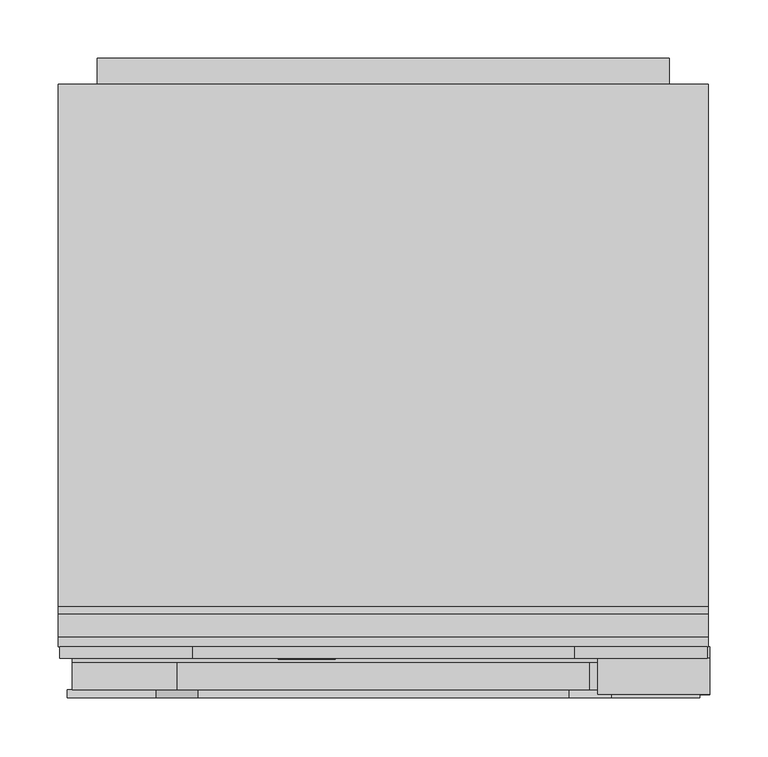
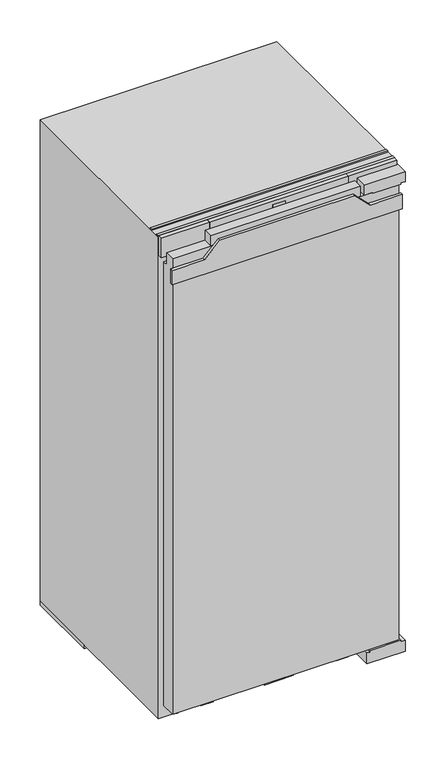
"""IFC4 building model written with IfcOpenShell, lengths in millimetres: proxy geometry, 11641120_EU1_K7343D : 36734300_EU1_11641120_K7343D."""

from ifc_helpers import new_model, si_unit, point, frame, frame_2d, origin, origin_with_axes, place, context, project, spatial, polyline, circle_curve, ellipse_curve, trimmed, segment, composite_curve, outline, extrude, faceted_brep, source, transform, mapped, element, save
from ifc_brep_helpers import plane_surface, cylinder_surface, revolved_surface, extruded_surface, advanced_brep


def specialty_equipment_4f898c9b(model_context):
    return source(origin(), model_context, "Body", "SolidModel", [
        advanced_brep(
        [(-46.64, 33.0, 1184.896), (-46.64, 33.0, 1185.704), (-41.288, 33.0, 1185.704), (-50.6, 33.0, 1185.704), (-48.4, 33.0, 1183.0), (-41.424, 33.0, 1184.896), (-43.84, 33.0, 1184.896), (-45.744, 33.0, 1184.0), (-46.64, 33.0, 1186.728), (-46.64, 33.0, 1187.6), (-45.272, 33.0, 1187.6), (-45.272, 33.0, 1186.728), (-46.64, 34.0, 1184.896), (-45.744, 34.0, 1184.0), (-43.84, 34.0, 1184.896), (-41.424, 34.0, 1184.896), (-48.4, 34.0, 1183.0), (-50.6, 34.0, 1185.704), (-41.288, 34.0, 1185.704), (-46.64, 34.0, 1185.704), (-46.64, 34.0, 1186.728), (-45.272, 34.0, 1186.728), (-45.272, 34.0, 1187.6), (-46.64, 34.0, 1187.6)],
        [
            (0, 1),
            (1, 2),
            (2, 3, ellipse_curve(frame((-45.944, 33.0, 1185.704), z_axis=(0.0, -1.0, 0.0), x_axis=(-1.0, 0.0, 0.0)), 4.656, 3.848)),
            (3, 4, circle_curve(frame((-47.5039564, 33.0, 1185.976), z_axis=(0.0, -1.0, 0.0), x_axis=(0.0, 0.0, -1.0)), 3.1079688)),
            (4, 5, circle_curve(frame((-46.0372064, 33.0, 1188.088), z_axis=(0.0, -1.0, 0.0), x_axis=(0.0, 0.0, -1.0)), 5.6098607)),
            (5, 6),
            (6, 7, circle_curve(frame((-45.3529412, 33.0, 1185.64), z_axis=(0.0, 1.0, 0.0), x_axis=(0.0, 0.0, -1.0)), 1.6859795)),
            (7, 0, circle_curve(frame((-45.744, 33.0, 1184.896), z_axis=(0.0, 1.0, 0.0), x_axis=(0.0, 0.0, -1.0)), 0.896)),
            (8, 9),
            (9, 10, circle_curve(frame((-45.956, 33.0, 1187.6), z_axis=(0.0, 1.0, 0.0), x_axis=(0.0, 0.0, -1.0)), 0.684)),
            (10, 11),
            (11, 8),
            (12, 13, circle_curve(frame((-45.744, 34.0, 1184.896), z_axis=(0.0, -1.0, 0.0), x_axis=(0.0, 0.0, -1.0)), 0.896)),
            (13, 14, circle_curve(frame((-45.3529412, 34.0, 1185.64), z_axis=(0.0, -1.0, 0.0), x_axis=(0.0, 0.0, -1.0)), 1.6859795)),
            (14, 15),
            (15, 16, circle_curve(frame((-46.0372064, 34.0, 1188.088), z_axis=(0.0, 1.0, 0.0), x_axis=(0.0, 0.0, -1.0)), 5.6098607)),
            (16, 17, circle_curve(frame((-47.5039564, 34.0, 1185.976), z_axis=(0.0, 1.0, 0.0), x_axis=(0.0, 0.0, -1.0)), 3.1079688)),
            (17, 18, ellipse_curve(frame((-45.944, 34.0, 1185.704), z_axis=(0.0, 1.0, 0.0), x_axis=(-1.0, 0.0, 0.0)), 4.656, 3.848)),
            (18, 19),
            (19, 12),
            (20, 21),
            (21, 22),
            (22, 23, circle_curve(frame((-45.956, 34.0, 1187.6), z_axis=(0.0, -1.0, 0.0), x_axis=(0.0, 0.0, -1.0)), 0.684)),
            (23, 20),
            (0, 12),
            (19, 1),
            (18, 2),
            (5, 15),
            (14, 6),
            (17, 3),
            (13, 7),
            (16, 4),
            (8, 20),
            (23, 9),
            (22, 10),
            (21, 11),
        ],
        [
            plane_surface(frame((-46.64, 33.0, 1185.704), z_axis=(0.0, -1.0, 0.0), x_axis=(0.0, 0.0, 1.0))),
            plane_surface(frame((-46.64, 34.0, 1185.704), z_axis=(0.0, 1.0, 0.0), x_axis=(0.0, 0.0, -1.0))),
            plane_surface(frame((-46.64, 33.0, 1184.896), z_axis=(1.0, 0.0, 0.0), x_axis=(0.0, 1.0, 0.0))),
            plane_surface(frame((-46.64, 33.0, 1185.704), z_axis=(0.0, 0.0, -1.0), x_axis=(0.0, 1.0, 0.0))),
            plane_surface(frame((-41.424, 33.0, 1184.896), z_axis=(0.0, 0.0, 1.0), x_axis=(0.0, 1.0, 0.0))),
            extruded_surface(trimmed(ellipse_curve(frame((-45.944, 35.0, 1185.704), z_axis=(0.0, -1.0, 0.0), x_axis=(-1.0, 0.0, 0.0)), 4.656, 3.848), [point((-41.288, 35.0, 1185.704))], [point((-50.6, 35.0, 1185.704))], True, "CARTESIAN"), (0.0, -1.0, 0.0), 1.0),
            revolved_surface(polyline([(-45.3529412, 34.0, 1183.9540205), (-45.3529412, 33.0, 1183.9540205)]), (-45.3529412, 34.0, 1185.64), (0.0, 1.0, 0.0)),
            revolved_surface(polyline([(-45.744, 34.0, 1184.0), (-45.744, 33.0, 1184.0)]), (-45.744, 34.0, 1184.896), (0.0, 1.0, 0.0)),
            cylinder_surface(frame((-47.5039564, 34.0, 1185.976), z_axis=(0.0, -1.0, 0.0), x_axis=(0.0, 0.0, -1.0)), 3.1079688),
            cylinder_surface(frame((-46.0372064, 34.0, 1188.088), z_axis=(0.0, -1.0, 0.0), x_axis=(0.0, 0.0, -1.0)), 5.6098607),
            plane_surface(frame((-46.64, 33.0, 1186.728), z_axis=(1.0, 0.0, 0.0), x_axis=(0.0, 1.0, 0.0))),
            revolved_surface(polyline([(-45.956, 34.0, 1186.916), (-45.956, 33.0, 1186.916)]), (-45.956, 34.0, 1187.6), (0.0, 1.0, 0.0)),
            plane_surface(frame((-45.272, 33.0, 1187.6), z_axis=(-1.0, 0.0, 0.0), x_axis=(0.0, 1.0, 0.0))),
            plane_surface(frame((-45.272, 33.0, 1186.728), z_axis=(0.0, 0.0, 1.0), x_axis=(0.0, 1.0, 0.0))),
        ],
        [
            (0, [[1, 2, 3, 4, 5, 6, 7, 8], [9, 10, 11, 12]]),
            (1, [[13, 14, 15, 16, 17, 18, 19, 20], [21, 22, 23, 24]]),
            (2, [[-1, 25, -20, 26]]),
            (3, [[-2, -26, -19, 27]]),
            (4, [[-6, 28, -15, 29]]),
            (5, [[-3, -27, -18, 30]]),
            (6, [[-7, -29, -14, 31]]),
            (7, [[-8, -31, -13, -25]]),
            (8, [[-4, -30, -17, 32]]),
            (9, [[-5, -32, -16, -28]]),
            (10, [[-9, 33, -24, 34]]),
            (11, [[-10, -34, -23, 35]]),
            (12, [[-11, -35, -22, 36]]),
            (13, [[-12, -36, -21, -33]]),
        ],
    ),
        advanced_brep(
        [(-63.336, 33.0, 1184.896), (-63.336, 33.0, 1185.704), (-57.984, 33.0, 1185.704), (-67.296, 33.0, 1185.704), (-65.096, 33.0, 1183.0), (-58.12, 33.0, 1184.896), (-60.536, 33.0, 1184.896), (-62.44, 33.0, 1184.0), (-63.336, 33.0, 1186.728), (-63.336, 33.0, 1187.6), (-61.968, 33.0, 1187.6), (-61.968, 33.0, 1186.728), (-63.336, 34.0, 1184.896), (-62.44, 34.0, 1184.0), (-60.536, 34.0, 1184.896), (-58.12, 34.0, 1184.896), (-65.096, 34.0, 1183.0), (-67.296, 34.0, 1185.704), (-57.984, 34.0, 1185.704), (-63.336, 34.0, 1185.704), (-63.336, 34.0, 1186.728), (-61.968, 34.0, 1186.728), (-61.968, 34.0, 1187.6), (-63.336, 34.0, 1187.6)],
        [
            (0, 1),
            (1, 2),
            (2, 3, ellipse_curve(frame((-62.64, 33.0, 1185.704), z_axis=(0.0, -1.0, 0.0), x_axis=(-1.0, 0.0, 0.0)), 4.656, 3.848)),
            (3, 4, circle_curve(frame((-64.1999564, 33.0, 1185.976), z_axis=(0.0, -1.0, 0.0), x_axis=(0.0, 0.0, -1.0)), 3.1079688)),
            (4, 5, circle_curve(frame((-62.7332064, 33.0, 1188.088), z_axis=(0.0, -1.0, 0.0), x_axis=(0.0, 0.0, -1.0)), 5.6098607)),
            (5, 6),
            (6, 7, circle_curve(frame((-62.0489412, 33.0, 1185.64), z_axis=(0.0, 1.0, 0.0), x_axis=(0.0, 0.0, -1.0)), 1.6859795)),
            (7, 0, circle_curve(frame((-62.44, 33.0, 1184.896), z_axis=(0.0, 1.0, 0.0), x_axis=(0.0, 0.0, -1.0)), 0.896)),
            (8, 9),
            (9, 10, circle_curve(frame((-62.652, 33.0, 1187.6), z_axis=(0.0, 1.0, 0.0), x_axis=(0.0, 0.0, -1.0)), 0.684)),
            (10, 11),
            (11, 8),
            (12, 13, circle_curve(frame((-62.44, 34.0, 1184.896), z_axis=(0.0, -1.0, 0.0), x_axis=(0.0, 0.0, -1.0)), 0.896)),
            (13, 14, circle_curve(frame((-62.0489412, 34.0, 1185.64), z_axis=(0.0, -1.0, 0.0), x_axis=(0.0, 0.0, -1.0)), 1.6859795)),
            (14, 15),
            (15, 16, circle_curve(frame((-62.7332064, 34.0, 1188.088), z_axis=(0.0, 1.0, 0.0), x_axis=(0.0, 0.0, -1.0)), 5.6098607)),
            (16, 17, circle_curve(frame((-64.1999564, 34.0, 1185.976), z_axis=(0.0, 1.0, 0.0), x_axis=(0.0, 0.0, -1.0)), 3.1079688)),
            (17, 18, ellipse_curve(frame((-62.64, 34.0, 1185.704), z_axis=(0.0, 1.0, 0.0), x_axis=(-1.0, 0.0, 0.0)), 4.656, 3.848)),
            (18, 19),
            (19, 12),
            (20, 21),
            (21, 22),
            (22, 23, circle_curve(frame((-62.652, 34.0, 1187.6), z_axis=(0.0, -1.0, 0.0), x_axis=(0.0, 0.0, -1.0)), 0.684)),
            (23, 20),
            (0, 12),
            (19, 1),
            (18, 2),
            (5, 15),
            (14, 6),
            (17, 3),
            (13, 7),
            (16, 4),
            (8, 20),
            (23, 9),
            (22, 10),
            (21, 11),
        ],
        [
            plane_surface(frame((-63.336, 33.0, 1185.704), z_axis=(0.0, -1.0, 0.0), x_axis=(0.0, 0.0, 1.0))),
            plane_surface(frame((-63.336, 34.0, 1185.704), z_axis=(0.0, 1.0, 0.0), x_axis=(0.0, 0.0, -1.0))),
            plane_surface(frame((-63.336, 33.0, 1184.896), z_axis=(1.0, 0.0, 0.0), x_axis=(0.0, 1.0, 0.0))),
            plane_surface(frame((-63.336, 33.0, 1185.704), z_axis=(0.0, 0.0, -1.0), x_axis=(0.0, 1.0, 0.0))),
            plane_surface(frame((-58.12, 33.0, 1184.896), z_axis=(0.0, 0.0, 1.0), x_axis=(0.0, 1.0, 0.0))),
            extruded_surface(trimmed(ellipse_curve(frame((-62.64, 35.0, 1185.704), z_axis=(0.0, -1.0, 0.0), x_axis=(-1.0, 0.0, 0.0)), 4.656, 3.848), [point((-57.984, 35.0, 1185.704))], [point((-67.296, 35.0, 1185.704))], True, "CARTESIAN"), (0.0, -1.0, 0.0), 1.0),
            revolved_surface(polyline([(-62.0489412, 34.0, 1183.9540205), (-62.0489412, 33.0, 1183.9540205)]), (-62.0489412, 34.0, 1185.64), (0.0, 1.0, 0.0)),
            revolved_surface(polyline([(-62.44, 34.0, 1184.0), (-62.44, 33.0, 1184.0)]), (-62.44, 34.0, 1184.896), (0.0, 1.0, 0.0)),
            cylinder_surface(frame((-64.1999564, 34.0, 1185.976), z_axis=(0.0, -1.0, 0.0), x_axis=(0.0, 0.0, -1.0)), 3.1079688),
            cylinder_surface(frame((-62.7332064, 34.0, 1188.088), z_axis=(0.0, -1.0, 0.0), x_axis=(0.0, 0.0, -1.0)), 5.6098607),
            plane_surface(frame((-63.336, 33.0, 1186.728), z_axis=(1.0, 0.0, 0.0), x_axis=(0.0, 1.0, 0.0))),
            revolved_surface(polyline([(-62.652, 34.0, 1186.916), (-62.652, 33.0, 1186.916)]), (-62.652, 34.0, 1187.6), (0.0, 1.0, 0.0)),
            plane_surface(frame((-61.968, 33.0, 1187.6), z_axis=(-1.0, 0.0, 0.0), x_axis=(0.0, 1.0, 0.0))),
            plane_surface(frame((-61.968, 33.0, 1186.728), z_axis=(0.0, 0.0, 1.0), x_axis=(0.0, 1.0, 0.0))),
        ],
        [
            (0, [[1, 2, 3, 4, 5, 6, 7, 8], [9, 10, 11, 12]]),
            (1, [[13, 14, 15, 16, 17, 18, 19, 20], [21, 22, 23, 24]]),
            (2, [[-1, 25, -20, 26]]),
            (3, [[-2, -26, -19, 27]]),
            (4, [[-6, 28, -15, 29]]),
            (5, [[-3, -27, -18, 30]]),
            (6, [[-7, -29, -14, 31]]),
            (7, [[-8, -31, -13, -25]]),
            (8, [[-4, -30, -17, 32]]),
            (9, [[-5, -32, -16, -28]]),
            (10, [[-9, 33, -24, 34]]),
            (11, [[-10, -34, -23, 35]]),
            (12, [[-11, -35, -22, 36]]),
            (13, [[-12, -36, -21, -33]]),
        ],
    ),
        extrude(outline(polyline([(1190.528, -72.08), (1189.232, -71.472), (1190.496, -68.76), (1191.792, -69.36), (1190.528, -72.08)])), frame((0.0, 33.0, 0.0), z_axis=(0.0, 1.0, 0.0), x_axis=(0.0, 0.0, 1.0)), (0.0, 0.0, 1.0), 1.0),
        extrude(outline(polyline([(1189.056, -74.056), (1187.624, -74.056), (1187.624, -73.104), (1184.344, -73.104), (1184.344, -74.056), (1183.0, -74.056), (1183.0, -67.744), (1184.344, -67.744), (1184.344, -68.672), (1189.056, -68.672), (1189.056, -74.056)])), frame((0.0, 33.0, 0.0), z_axis=(0.0, 1.0, 0.0), x_axis=(0.0, 0.0, 1.0)), (0.0, 0.0, 1.0), 1.0),
        extrude(outline(polyline([(1189.696, -57.536), (1189.696, -56.576), (1184.344, -56.576), (1184.344, -57.536), (1183.0, -57.536), (1183.0, -51.048), (1184.344, -51.048), (1184.344, -52.032), (1191.0, -52.032), (1191.0, -57.536), (1189.696, -57.536)])), frame((0.0, 33.0, 0.0), z_axis=(0.0, 1.0, 0.0), x_axis=(0.0, 0.0, 1.0)), (0.0, 0.0, 1.0), 1.0),
        extrude(outline(polyline([(1189.696, -90.0), (1189.696, -89.032), (1184.344, -89.032), (1184.344, -90.0), (1183.0, -90.0), (1183.0, -86.48), (1184.344, -86.48), (1184.344, -87.44), (1187.7471247, -87.44), (1183.0, -83.864), (1187.8152223, -80.272), (1184.344, -80.272), (1184.344, -81.256), (1183.0, -81.256), (1183.0, -74.872), (1184.344, -74.872), (1184.344, -75.888), (1189.696, -75.888), (1189.696, -74.872), (1191.0, -74.872), (1191.0, -79.744), (1188.0, -82.08), (1191.0, -84.424), (1191.0, -90.0), (1189.696, -90.0)])), frame((0.0, 33.0, 0.0), z_axis=(0.0, 1.0, 0.0), x_axis=(0.0, 0.0, 1.0)), (0.0, 0.0, 1.0), 1.0),
        faceted_brep([(163.5, 34.0, 1212.0), (-163.5, 34.0, 1212.0), (-163.5, 34.0, 1163.0), (163.5, 34.0, 1163.0), (15.0, 34.0, 1203.0), (15.0, 34.0, 1173.0), (-15.0, 34.0, 1173.0), (-15.0, 34.0, 1203.0), (163.5, 44.0, 1212.0), (163.5, 44.0, 1163.0), (-163.5, 44.0, 1163.0), (-163.5, 44.0, 1212.0), (15.0, 35.0, 1203.0), (-15.0, 35.0, 1203.0), (-15.0, 35.0, 1173.0), (15.0, 35.0, 1173.0)], [[[0, 1, 2, 3], [4, 5, 6, 7]], [[8, 9, 10, 11]], [[0, 3, 9, 8]], [[3, 2, 10, 9]], [[2, 1, 11, 10]], [[1, 0, 8, 11]], [[12, 13, 14, 15]], [[12, 15, 5, 4]], [[15, 14, 6, 5]], [[14, 13, 7, 6]], [[13, 12, 4, 7]]]),
        extrude(outline(polyline([(163.5, 44.0), (277.5, 44.0), (277.5, 34.0), (163.5, 34.0), (163.5, 44.0)])), frame((0.0, 0.0, 1163.0), z_axis=(0.0, 0.0, 1.0), x_axis=(1.0, 0.0, 0.0)), (0.0, 0.0, 1.0), 49.0),
        extrude(outline(polyline([(-277.5, 44.0), (-163.5, 44.0), (-163.5, 34.0), (-277.5, 34.0), (-277.5, 44.0)])), frame((0.0, 0.0, 1163.0), z_axis=(0.0, 0.0, 1.0), x_axis=(1.0, 0.0, 0.0)), (0.0, 0.0, 1.0), 49.0),
        extrude(outline(polyline([(-15.0, 35.0), (15.0, 35.0), (15.0, 34.0), (-15.0, 34.0), (-15.0, 35.0)])), frame((0.0, 0.0, 1173.0), z_axis=(0.0, 0.0, 1.0), x_axis=(1.0, 0.0, 0.0)), (0.0, 0.0, 1.0), 30.0),
        extrude(outline(polyline([(1136.0, -245.0), (27.0, -245.0), (27.0, 245.0), (130.0, 245.0), (130.0, 180.0), (160.0, 180.0), (160.0, 245.0), (1136.0, 245.0), (1136.0, -245.0)])), frame((0.0, 526.0, 0.0), z_axis=(0.0, 1.0, 0.0), x_axis=(0.0, 0.0, 1.0)), (0.0, 0.0, 1.0), 22.0),
        extrude(outline(polyline([(-144.9296686, 52.0), (-174.0, 52.0), (-194.4880722, 346.0), (-165.4177409, 346.0), (-144.9296686, 52.0)])), origin_with_axes(), (0.0, 0.0, 1.0), 9.0),
        extrude(outline(polyline([(144.9296686, 52.0), (165.4177409, 346.0), (194.4880722, 346.0), (174.0, 52.0), (144.9296686, 52.0)])), origin_with_axes(), (0.0, 0.0, 1.0), 9.0),
        extrude(outline(polyline([(539.651012, 148.8988246), (539.651012, 150.150839), (546.8850603, 150.150839), (546.8850603, 140.1043073), (539.5027529, 140.1043073), (539.5027529, 141.3585545), (545.6152499, 141.3585545), (545.6152499, 144.6556887), (539.967462, 144.6556887), (539.967462, 145.9162842), (545.6270824, 145.9162842), (545.6270824, 148.8988246), (539.651012, 148.8988246)])), frame((193.5, 0.0, 0.0), z_axis=(1.0, 0.0, 0.0), x_axis=(0.0, 1.0, 0.0)), (0.0, 0.0, 1.0), 1.0),
        extrude(outline(polyline([(537.624075, 150.150839), (537.624075, 140.1043073), (531.3334819, 140.1043073), (531.3334819, 141.3573374), (536.3334819, 141.3573374), (536.3334819, 150.150839), (537.624075, 150.150839)])), frame((193.5, 0.0, 0.0), z_axis=(1.0, 0.0, 0.0), x_axis=(0.0, 1.0, 0.0)), (0.0, 0.0, 1.0), 1.0),
        advanced_brep(
        [(232.0, 526.0, 145.0), (217.0, 526.0, 145.0), (232.0, 547.5, 145.0), (217.0, 532.5, 145.0), (194.5, 547.5, 145.0), (194.5, 532.5, 145.0)],
        [
            (0, 1, circle_curve(frame((224.5, 526.0, 145.0), z_axis=(0.0, -1.0, 0.0), x_axis=(-1.0, 0.0, 0.0)), 7.5)),
            (1, 0, circle_curve(frame((224.5, 526.0, 145.0), z_axis=(0.0, -1.0, 0.0), x_axis=(-1.0, 0.0, 0.0)), 7.5)),
            (0, 2),
            (2, 3, ellipse_curve(frame((224.5, 540.0, 145.0), z_axis=(0.7071067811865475, -0.7071067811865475, 0.0), x_axis=(-0.7071067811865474, -0.7071067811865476, 0.0)), 10.6066017, 7.5)),
            (3, 1),
            (3, 2, ellipse_curve(frame((224.5, 540.0, 145.0), z_axis=(0.7071067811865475, -0.7071067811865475, 0.0), x_axis=(-0.7071067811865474, -0.7071067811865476, 0.0)), 10.6066017, 7.5)),
            (4, 5, circle_curve(frame((194.5, 540.0, 145.0), z_axis=(-1.0, 0.0, 0.0), x_axis=(0.0, -1.0, 0.0)), 7.5)),
            (5, 4, circle_curve(frame((194.5, 540.0, 145.0), z_axis=(-1.0, 0.0, 0.0), x_axis=(0.0, -1.0, 0.0)), 7.5)),
            (2, 4),
            (5, 3),
        ],
        [
            plane_surface(frame((224.5, 526.0, 145.0), z_axis=(0.0, -1.0, 0.0), x_axis=(0.0, 0.0, 1.0))),
            cylinder_surface(frame((224.5, 526.0, 145.0), z_axis=(0.0, -1.0, 0.0), x_axis=(-1.0, 0.0, 0.0)), 7.5),
            plane_surface(frame((194.5, 540.0, 145.0), z_axis=(-1.0, 0.0, 0.0), x_axis=(0.0, 0.0, 1.0))),
            cylinder_surface(frame((224.5, 540.0, 145.0), z_axis=(1.0, 0.0, 0.0), x_axis=(0.0, -1.0, 0.0)), 7.5),
        ],
        [
            (0, [[1, 2]]),
            (1, [[-1, 3, 4, 5]]),
            (1, [[-2, -5, 6, -3]]),
            (2, [[7, 8]]),
            (3, [[-4, 9, -8, 10]]),
            (3, [[-6, -10, -7, -9]]),
        ],
    ),
        extrude(outline(polyline([(-34.0, 44.0), (34.0, 44.0), (34.0, 35.0), (-34.0, 35.0), (-34.0, 44.0)])), frame((0.0, 0.0, 13.0), z_axis=(0.0, 0.0, 1.0), x_axis=(1.0, 0.0, 0.0)), (0.0, 0.0, 1.0), 19.0),
        extrude(outline(polyline([(-233.5, 44.0), (-233.5, 488.0), (233.5, 488.0), (233.5, 44.0), (-233.5, 44.0)])), frame((0.0, 0.0, 477.0), z_axis=(0.0, 0.0, 1.0), x_axis=(1.0, 0.0, 0.0)), (0.0, 0.0, 1.0), 3.0),
        extrude(outline(polyline([(-233.5, 350.0), (-233.5, 488.0), (233.5, 488.0), (233.5, 350.0), (-233.5, 350.0)])), frame((0.0, 0.0, 62.0), z_axis=(0.0, 0.0, 1.0), x_axis=(1.0, 0.0, 0.0)), (0.0, 0.0, 1.0), 188.0),
        extrude(outline(composite_curve([segment(trimmed(circle_curve(frame_2d((228.0, 64.0)), 11.0), [point((239.0, 64.0))], [point((217.0, 64.0))], False, "CARTESIAN"), True, "CONTINUOUS"), segment(trimmed(circle_curve(frame_2d((228.0, 64.0)), 11.0), [point((217.0, 64.0))], [point((239.0, 64.0))], False, "CARTESIAN"), True, "CONTINUOUS")], self_intersect=False)), origin_with_axes(), (0.0, 0.0, 1.0), 9.0),
        extrude(outline(composite_curve([segment(trimmed(circle_curve(frame_2d((-228.0, 64.0)), 11.0), [point((-217.0, 64.0))], [point((-239.0, 64.0))], False, "CARTESIAN"), True, "CONTINUOUS"), segment(trimmed(circle_curve(frame_2d((-228.0, 64.0)), 11.0), [point((-239.0, 64.0))], [point((-217.0, 64.0))], False, "CARTESIAN"), True, "CONTINUOUS")], self_intersect=False)), origin_with_axes(), (0.0, 0.0, 1.0), 9.0),
        extrude(outline(polyline([(278.5, 526.0), (278.5, 346.0), (-278.5, 346.0), (-278.5, 526.0), (278.5, 526.0)])), origin_with_axes(), (0.0, 0.0, 1.0), 9.0),
        extrude(outline(polyline([(278.5, 52.0), (278.5, 44.0), (-278.5, 44.0), (-278.5, 52.0), (278.5, 52.0)])), frame((0.0, 0.0, 1209.0), z_axis=(0.0, 0.0, 1.0), x_axis=(1.0, 0.0, 0.0)), (0.0, 0.0, 1.0), 3.0),
        extrude(outline(polyline([(278.5, 78.0), (278.5, 72.0), (-278.5, 72.0), (-278.5, 78.0), (278.5, 78.0)])), frame((0.0, 0.0, 1209.0), z_axis=(0.0, 0.0, 1.0), x_axis=(1.0, 0.0, 0.0)), (0.0, 0.0, 1.0), 3.0),
        faceted_brep([(278.5, 526.0, 1209.0), (-278.5, 526.0, 1209.0), (-278.5, 44.0, 1209.0), (278.5, 44.0, 1209.0), (278.5, 526.0, 9.0), (278.5, 44.0, 9.0), (-278.5, 44.0, 9.0), (-278.5, 526.0, 9.0), (233.5, 44.0, 62.0), (-233.5, 44.0, 62.0), (-233.5, 44.0, 64.0), (-233.5, 44.0, 570.0), (-233.5, 44.0, 1134.0), (233.5, 44.0, 1134.0), (233.5, 44.0, 570.0), (233.5, 44.0, 64.0), (233.5, 488.0, 1134.0), (-233.5, 488.0, 1134.0), (-233.5, 488.0, 570.0), (-233.5, 488.0, 64.0), (-233.5, 488.0, 62.0), (233.5, 488.0, 62.0), (233.5, 488.0, 64.0), (233.5, 488.0, 570.0)], [[[0, 1, 2, 3]], [[4, 5, 6, 7]], [[1, 0, 4, 7]], [[2, 1, 7, 6]], [[3, 2, 6, 5], [8, 9, 10, 11, 12, 13, 14, 15]], [[0, 3, 5, 4]], [[16, 17, 18, 19, 20, 21, 22, 23]], [[21, 8, 15, 14, 13, 16, 23, 22]], [[21, 20, 9, 8]], [[9, 20, 19, 18, 17, 12, 11, 10]], [[17, 16, 13, 12]]]),
        extrude(outline(polyline([(1114.0, 271.0), (1150.0, 271.0), (1150.0, 195.0), (1186.0, 159.0), (1186.0, -159.0), (1150.0, -195.0), (1150.0, -271.0), (1114.0, -271.0), (1114.0, 271.0)])), frame((0.0, 0.0, 0.0), z_axis=(0.0, 1.0, 0.0), x_axis=(0.0, 0.0, 1.0)), (0.0, 0.0, 1.0), 7.0),
        extrude(outline(polyline([(176.5, 7.0), (-176.5, 7.0), (-176.5, 30.0), (176.5, 30.0), (176.5, 7.0)])), frame((0.0, 0.0, 1174.0), z_axis=(0.0, 0.0, 1.0), x_axis=(1.0, 0.0, 0.0)), (0.0, 0.0, 1.0), 25.0),
        extrude(outline(polyline([(7.0, 38.0), (7.0, 1174.0), (30.0, 1174.0), (30.0, 1144.0), (44.0, 1144.0), (44.0, 38.0), (7.0, 38.0)])), frame((-266.5, 0.0, 0.0), z_axis=(1.0, 0.0, 0.0), x_axis=(0.0, 1.0, 0.0)), (0.0, 0.0, 1.0), 533.0),
        extrude(outline(polyline([(34.0, 189.5), (7.0, 189.5), (7.0, 279.5), (34.0, 279.5), (34.0, 268.5), (38.0, 268.5), (38.0, 195.5), (34.0, 195.5), (34.0, 189.5)])), frame((0.0, 3.0, 0.0), z_axis=(0.0, 1.0, 0.0), x_axis=(0.0, 0.0, 1.0)), (0.0, 0.0, 1.0), 41.0),
        extrude(outline(polyline([(1174.0, 203.5), (1174.0, 269.5), (1177.0, 269.5), (1177.0, 279.5), (1201.0, 279.5), (1201.0, 183.5), (1177.0, 183.5), (1177.0, 203.5), (1174.0, 203.5)])), frame((0.0, 3.0, 0.0), z_axis=(0.0, 1.0, 0.0), x_axis=(0.0, 0.0, 1.0)), (0.0, 0.0, 1.0), 31.0),
    ])


if __name__ == "__main__":
    model = new_model("IFC4")
    model_context = context("Model", 3, world=origin())
    ifc_project = project(units=[si_unit("LENGTHUNIT", "METRE", prefix="MILLI")], contexts=[model_context])
    site = spatial("IfcSite", under=ifc_project)
    building = spatial("IfcBuilding", under=site)
    placement = place(None, origin())
    specialty_equipment_shape = specialty_equipment_4f898c9b(model_context)
    element("IfcBuildingElementProxy", 1, Name="11641120_EU1_K7343D : 36734300_EU1_11641120_K7343D", ObjectType="11641120_EU1_K7343D : 36734300_EU1_11641120_K7343D", at=placement, inside=building, context=model_context, shape_type="MappedRepresentation", body=[
        mapped(specialty_equipment_shape, transform((0.0, 0.0, 0.0), x_axis=(1.0, 0.0, 0.0), y_axis=(0.0, 1.0, 0.0), z_axis=(0.0, 0.0, 1.0))),
    ])
    save(model, "model.ifc")
